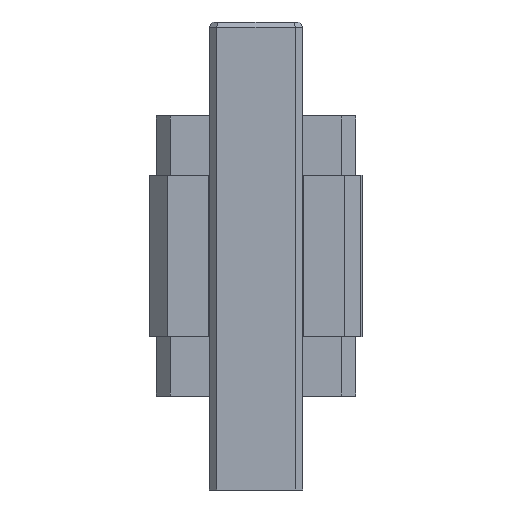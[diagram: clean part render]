
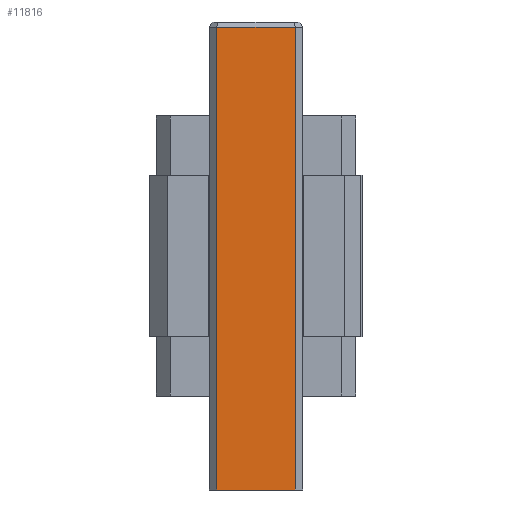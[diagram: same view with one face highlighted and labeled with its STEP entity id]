
A CAD part, front view. The second image highlights one B-rep face of the part: STEP entity #11816.
In plain terms, the highlighted planar face has unit normal (0, -1, 0).
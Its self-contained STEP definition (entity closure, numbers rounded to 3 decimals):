
#10777=DIRECTION('',(1.,0.,0.));
#10778=VECTOR('',#10777,12.6);
#10779=CARTESIAN_POINT('',(-6.3,-9.85,-37.35));
#10780=LINE('',#10779,#10778);
#11050=DIRECTION('',(1.,0.,0.));
#11051=VECTOR('',#11050,12.6);
#11052=CARTESIAN_POINT('',(-6.3,-9.85,36.484));
#11053=LINE('',#11052,#11051);
#11054=DIRECTION('',(0.,0.,1.));
#11055=VECTOR('',#11054,73.834);
#11056=CARTESIAN_POINT('',(-6.3,-9.85,-37.35));
#11057=LINE('',#11056,#11055);
#11062=DIRECTION('',(0.,0.,1.));
#11063=VECTOR('',#11062,73.834);
#11064=CARTESIAN_POINT('',(6.3,-9.85,-37.35));
#11065=LINE('',#11064,#11063);
#11248=CARTESIAN_POINT('',(-6.3,-9.85,-37.35));
#11249=VERTEX_POINT('',#11248);
#11250=CARTESIAN_POINT('',(6.3,-9.85,-37.35));
#11251=VERTEX_POINT('',#11250);
#11312=CARTESIAN_POINT('',(6.3,-9.85,36.484));
#11313=VERTEX_POINT('',#11312);
#11316=CARTESIAN_POINT('',(-6.3,-9.85,36.484));
#11317=VERTEX_POINT('',#11316);
#11804=CARTESIAN_POINT('',(-6.3,-9.85,-37.35));
#11805=DIRECTION('',(0.,-1.,0.));
#11806=DIRECTION('',(1.,0.,0.));
#11807=AXIS2_PLACEMENT_3D('',#11804,#11805,#11806);
#11808=PLANE('',#11807);
#11809=ORIENTED_EDGE('',*,*,#11795,.T.);
#11811=ORIENTED_EDGE('',*,*,#11810,.F.);
#11812=ORIENTED_EDGE('',*,*,#11397,.F.);
#11813=ORIENTED_EDGE('',*,*,#11770,.T.);
#11814=EDGE_LOOP('',(#11809,#11811,#11812,#11813));
#11815=FACE_OUTER_BOUND('',#11814,.F.);
#11397=EDGE_CURVE('',#11249,#11251,#10780,.T.);
#11770=EDGE_CURVE('',#11249,#11317,#11057,.T.);
#11795=EDGE_CURVE('',#11317,#11313,#11053,.T.);
#11810=EDGE_CURVE('',#11251,#11313,#11065,.T.);
#11816=ADVANCED_FACE('',(#11815),#11808,.T.);
